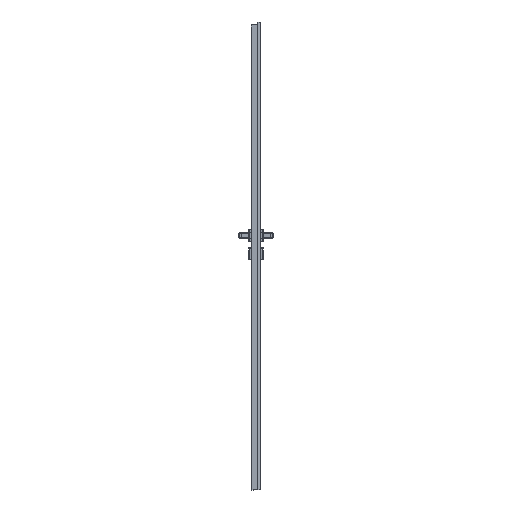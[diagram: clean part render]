
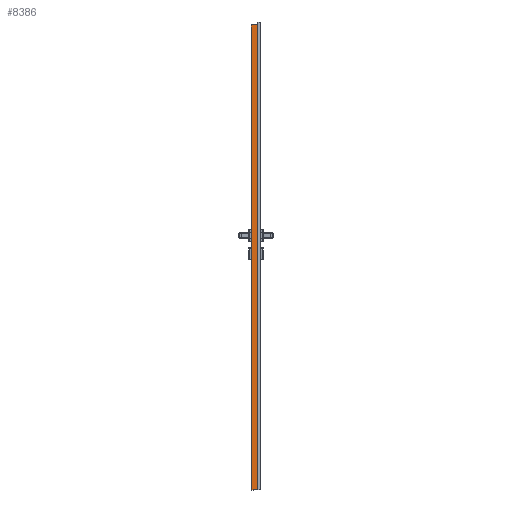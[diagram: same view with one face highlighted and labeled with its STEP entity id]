
A CAD part, left-side view. The second image highlights one B-rep face of the part: STEP entity #8386.
In plain terms, the highlighted planar face has unit normal (-1, 0, 0).
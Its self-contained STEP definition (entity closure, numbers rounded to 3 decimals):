
#8386=ADVANCED_FACE('',(#14864),#12224,.F.);
#12224=PLANE('',#79088);
#14864=FACE_OUTER_BOUND('',#19345,.T.);
#19345=EDGE_LOOP('',(#27296,#27297,#27298,#27299,#27300));
#27296=ORIENTED_EDGE('',*,*,#54488,.T.);
#27297=ORIENTED_EDGE('',*,*,#54491,.T.);
#27298=ORIENTED_EDGE('',*,*,#54492,.T.);
#27299=ORIENTED_EDGE('',*,*,#54493,.F.);
#27300=ORIENTED_EDGE('',*,*,#54494,.T.);
#46662=VERTEX_POINT('',#113898);
#46664=VERTEX_POINT('',#113901);
#46666=VERTEX_POINT('',#113907);
#46667=VERTEX_POINT('',#113909);
#46668=VERTEX_POINT('',#113911);
#54488=EDGE_CURVE('',#46664,#46662,#64683,.T.);
#54491=EDGE_CURVE('',#46662,#46666,#64686,.T.);
#54492=EDGE_CURVE('',#46666,#46667,#64687,.T.);
#54493=EDGE_CURVE('',#46668,#46667,#64688,.T.);
#54494=EDGE_CURVE('',#46668,#46664,#64689,.T.);
#64683=LINE('',#113900,#71759);
#64686=LINE('',#113906,#71762);
#64687=LINE('',#113908,#71763);
#64688=LINE('',#113910,#71764);
#64689=LINE('',#113912,#71765);
#71759=VECTOR('',#87228,1.);
#71762=VECTOR('',#87233,1.);
#71763=VECTOR('',#87234,1.);
#71764=VECTOR('',#87235,1.);
#71765=VECTOR('',#87236,1.);
#79088=AXIS2_PLACEMENT_3D('',#113913,#87237,#87238);
#87228=DIRECTION('',(0.,0.,-1.));
#87233=DIRECTION('',(0.,-0.894,-0.447));
#87234=DIRECTION('',(0.,-1.,0.));
#87235=DIRECTION('',(0.,0.,-1.));
#87236=DIRECTION('',(0.,1.,0.));
#87237=DIRECTION('',(1.,0.,0.));
#87238=DIRECTION('',(0.,0.,-1.));
#113898=CARTESIAN_POINT('',(-308.985,0.,1.));
#113900=CARTESIAN_POINT('',(-308.985,0.,2250.));
#113901=CARTESIAN_POINT('',(-308.985,0.,2016.999));
#113906=CARTESIAN_POINT('',(-308.985,899.6,450.8));
#113907=CARTESIAN_POINT('',(-308.985,-2.,0.));
#113908=CARTESIAN_POINT('',(-308.985,0.,0.));
#113909=CARTESIAN_POINT('',(-308.985,-26.,0.));
#113910=CARTESIAN_POINT('',(-308.985,-26.,2250.));
#113911=CARTESIAN_POINT('',(-308.985,-26.,2016.999));
#113912=CARTESIAN_POINT('',(-308.985,0.,2016.999));
#113913=CARTESIAN_POINT('',(-308.985,0.,2250.));
